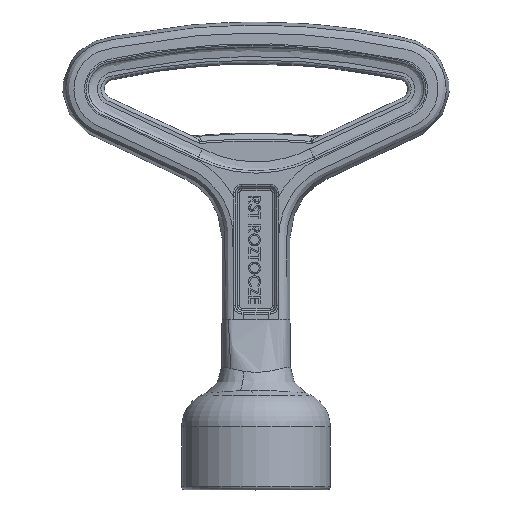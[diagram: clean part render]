
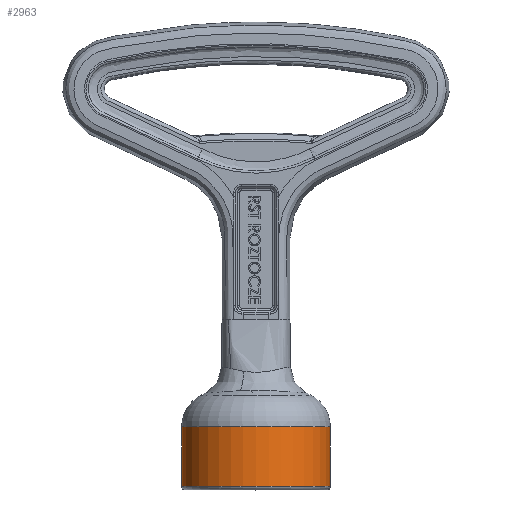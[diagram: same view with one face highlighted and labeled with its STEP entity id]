
A CAD part, top view. The second image highlights one B-rep face of the part: STEP entity #2963.
In plain terms, the highlighted cylindrical face has radius 10.5 mm (diameter 21 mm), a partial arc.
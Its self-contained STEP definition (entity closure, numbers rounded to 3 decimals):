
#942 = DIRECTION ( 'NONE',  ( 0., 1., 0. ) ) ;
#1671 = EDGE_CURVE ( 'NONE', #32790, #17585, #19478, .T. ) ;
#2471 = CYLINDRICAL_SURFACE ( 'NONE', #6844, 10.5 ) ;
#2853 = VERTEX_POINT ( 'NONE', #20699 ) ;
#2963 = ADVANCED_FACE ( 'NONE', ( #10883 ), #2471, .T. ) ;
#3355 = EDGE_CURVE ( 'NONE', #2853, #20317, #34031, .T. ) ;
#4038 = CARTESIAN_POINT ( 'NONE',  ( 10.5, -15.094, 0. ) ) ;
#6233 = ORIENTED_EDGE ( 'NONE', *, *, #3355, .F. ) ;
#6844 = AXIS2_PLACEMENT_3D ( 'NONE', #13208, #18910, #21930 ) ;
#7019 = CARTESIAN_POINT ( 'NONE',  ( -10.5, -15.094, 0. ) ) ;
#7276 = CARTESIAN_POINT ( 'NONE',  ( -10.5, -24., 0. ) ) ;
#10779 = AXIS2_PLACEMENT_3D ( 'NONE', #34086, #14481, #17501 ) ;
#10883 = FACE_OUTER_BOUND ( 'NONE', #22207, .T. ) ;
#12159 = EDGE_CURVE ( 'NONE', #2853, #32790, #28910, .T. ) ;
#12340 = ORIENTED_EDGE ( 'NONE', *, *, #1671, .T. ) ;
#12352 = CARTESIAN_POINT ( 'NONE',  ( 10.5, -23.5, 0. ) ) ;
#13208 = CARTESIAN_POINT ( 'NONE',  ( 0., -24., 0. ) ) ;
#14481 = DIRECTION ( 'NONE',  ( 0., -1., 0. ) ) ;
#17501 = DIRECTION ( 'NONE',  ( -1., 0., 0. ) ) ;
#17585 = VERTEX_POINT ( 'NONE', #4038 ) ;
#18801 = VECTOR ( 'NONE', #33372, 1000. ) ;
#18910 = DIRECTION ( 'NONE',  ( 0., 1., 0. ) ) ;
#19478 = LINE ( 'NONE', #25325, #18801 ) ;
#20317 = VERTEX_POINT ( 'NONE', #7019 ) ;
#20699 = CARTESIAN_POINT ( 'NONE',  ( -10.5, -23.5, 0. ) ) ;
#21930 = DIRECTION ( 'NONE',  ( -1., 0., 0. ) ) ;
#22162 = CIRCLE ( 'NONE', #10779, 10.5 ) ;
#22207 = EDGE_LOOP ( 'NONE', ( #31350, #12340, #23232, #6233 ) ) ;
#23141 = DIRECTION ( 'NONE',  ( 0., 1., 0. ) ) ;
#23232 = ORIENTED_EDGE ( 'NONE', *, *, #29799, .T. ) ;
#23960 = VECTOR ( 'NONE', #23141, 1000. ) ;
#25325 = CARTESIAN_POINT ( 'NONE',  ( 10.5, -24., 0. ) ) ;
#28910 = CIRCLE ( 'NONE', #30618, 10.5 ) ;
#29799 = EDGE_CURVE ( 'NONE', #17585, #20317, #22162, .T. ) ;
#30618 = AXIS2_PLACEMENT_3D ( 'NONE', #34137, #942, #31465 ) ;
#31350 = ORIENTED_EDGE ( 'NONE', *, *, #12159, .T. ) ;
#31465 = DIRECTION ( 'NONE',  ( 1., 0., 0. ) ) ;
#32790 = VERTEX_POINT ( 'NONE', #12352 ) ;
#33372 = DIRECTION ( 'NONE',  ( 0., 1., 0. ) ) ;
#34031 = LINE ( 'NONE', #7276, #23960 ) ;
#34086 = CARTESIAN_POINT ( 'NONE',  ( 0., -15.094, 0. ) ) ;
#34137 = CARTESIAN_POINT ( 'NONE',  ( 0., -23.5, 0. ) ) ;
